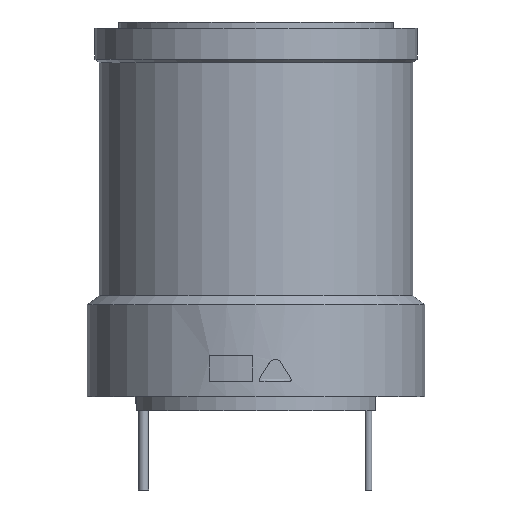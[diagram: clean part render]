
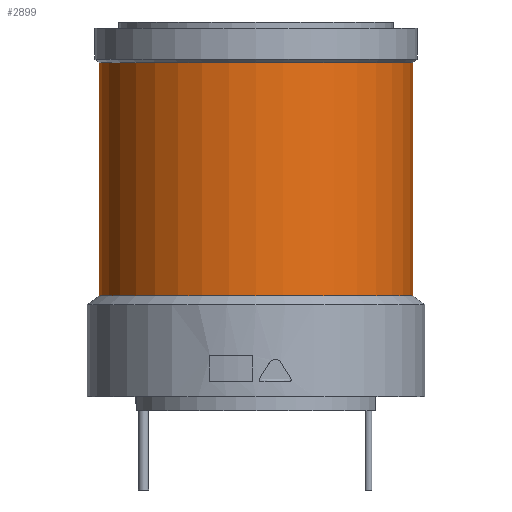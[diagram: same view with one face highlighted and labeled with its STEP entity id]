
A CAD part, left-side view. The second image highlights one B-rep face of the part: STEP entity #2899.
In plain terms, the highlighted cylindrical face has radius 122.5 mm (diameter 245 mm), a partial arc.
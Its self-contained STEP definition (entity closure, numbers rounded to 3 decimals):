
#834 = CARTESIAN_POINT ( 'NONE',  ( 0., 122.5, 90. ) ) ;
#860 = CARTESIAN_POINT ( 'NONE',  ( 0., -122.5, 90. ) ) ;
#2891 = ORIENTED_EDGE ( 'NONE', *, *, #2894, .F. ) ;
#2894 = EDGE_CURVE ( 'NONE', #3455, #3484, #4405, .T. ) ;
#2897 = ORIENTED_EDGE ( 'NONE', *, *, #3033, .F. ) ;
#2898 = EDGE_LOOP ( 'NONE', ( #2897, #2900, #2925, #2891 ) ) ;
#2899 = ADVANCED_FACE ( 'NONE', ( #4456 ), #4455, .T. ) ;
#2900 = ORIENTED_EDGE ( 'NONE', *, *, #2908, .T. ) ;
#2908 = EDGE_CURVE ( 'NONE', #2990, #2988, #4452, .T. ) ;
#2925 = ORIENTED_EDGE ( 'NONE', *, *, #3035, .T. ) ;
#2988 = VERTEX_POINT ( 'NONE', #4628 ) ;
#2990 = VERTEX_POINT ( 'NONE', #4616 ) ;
#3033 = EDGE_CURVE ( 'NONE', #2990, #3455, #4719, .T. ) ;
#3035 = EDGE_CURVE ( 'NONE', #2988, #3484, #4631, .T. ) ;
#3455 = VERTEX_POINT ( 'NONE', #860 ) ;
#3484 = VERTEX_POINT ( 'NONE', #834 ) ;
#4397 = CARTESIAN_POINT ( 'NONE',  ( 0., 0., 90. ) ) ;
#4398 = AXIS2_PLACEMENT_3D ( 'NONE', #4397, #4454, #4453 ) ;
#4399 = DIRECTION ( 'NONE',  ( 0., 0., -1. ) ) ;
#4405 = CIRCLE ( 'NONE', #4398, 122.5 ) ;
#4433 = CARTESIAN_POINT ( 'NONE',  ( 0., 0., 272. ) ) ;
#4447 = DIRECTION ( 'NONE',  ( 0., 1., 0. ) ) ;
#4448 = AXIS2_PLACEMENT_3D ( 'NONE', #4450, #4399, #4447 ) ;
#4450 = CARTESIAN_POINT ( 'NONE',  ( 0., 0., -72.556 ) ) ;
#4451 = DIRECTION ( 'NONE',  ( 0., 0., -1. ) ) ;
#4452 = CIRCLE ( 'NONE', #4487, 122.5 ) ;
#4453 = DIRECTION ( 'NONE',  ( 0., 1., 0. ) ) ;
#4454 = DIRECTION ( 'NONE',  ( 0., 0., -1. ) ) ;
#4455 = CYLINDRICAL_SURFACE ( 'NONE', #4448, 122.5 ) ;
#4456 = FACE_OUTER_BOUND ( 'NONE', #2898, .T. ) ;
#4486 = DIRECTION ( 'NONE',  ( 0., 1., 0. ) ) ;
#4487 = AXIS2_PLACEMENT_3D ( 'NONE', #4433, #4451, #4486 ) ;
#4616 = CARTESIAN_POINT ( 'NONE',  ( 0., -122.5, 272. ) ) ;
#4628 = CARTESIAN_POINT ( 'NONE',  ( 0., 122.5, 272. ) ) ;
#4631 = LINE ( 'NONE', #4712, #4711 ) ;
#4710 = DIRECTION ( 'NONE',  ( 0., 0., -1. ) ) ;
#4711 = VECTOR ( 'NONE', #4710, 1000. ) ;
#4712 = CARTESIAN_POINT ( 'NONE',  ( 0., 122.5, -72.556 ) ) ;
#4716 = DIRECTION ( 'NONE',  ( 0., 0., -1. ) ) ;
#4717 = VECTOR ( 'NONE', #4716, 1000. ) ;
#4718 = CARTESIAN_POINT ( 'NONE',  ( 0., -122.5, -72.556 ) ) ;
#4719 = LINE ( 'NONE', #4718, #4717 ) ;
